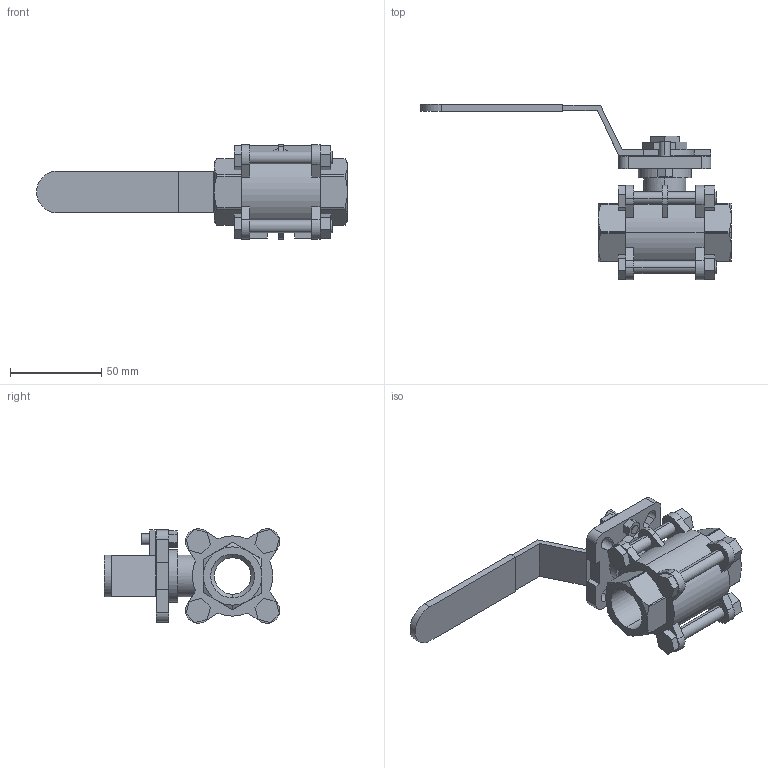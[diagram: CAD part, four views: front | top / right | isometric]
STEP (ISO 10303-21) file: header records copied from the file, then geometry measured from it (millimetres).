
FILE_DESCRIPTION (( 'STEP AP203' ), '1' );
FILE_NAME ('C3.622I020IFVPB0.STEP', '2018-10-12T11:53:17', ( '' ), ( '' ), 'SwSTEP 2.0', 'SolidWorks 2014', '' );
FILE_SCHEMA (( 'CONFIG_CONTROL_DESIGN' ));
Length unit declared in the file: millimetre
Products named in the file (1): C3.622I020IFVPB0
Bounding box: 170.5 x 96.4 x 51.83 mm (x, y, z)
Volume: 118632.6 mm3; surface area: 41170 mm2
Topology: 1 solids, 1 shells, 276 faces, 726 edges, 477 vertices
Faces by surface type: plane 175, cylinder 83, cone 18
Entity records: 8808 total; most frequent: CARTESIAN_POINT 1730, ORIENTED_EDGE 1452, DIRECTION 1449, EDGE_CURVE 726, VECTOR 497, LINE 497, VERTEX_POINT 477, AXIS2_PLACEMENT_3D 476
